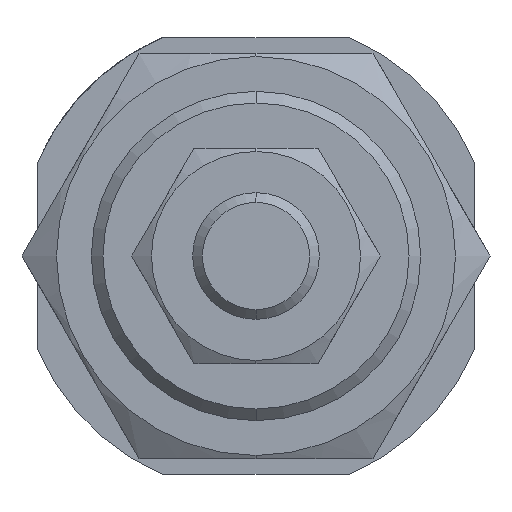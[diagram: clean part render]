
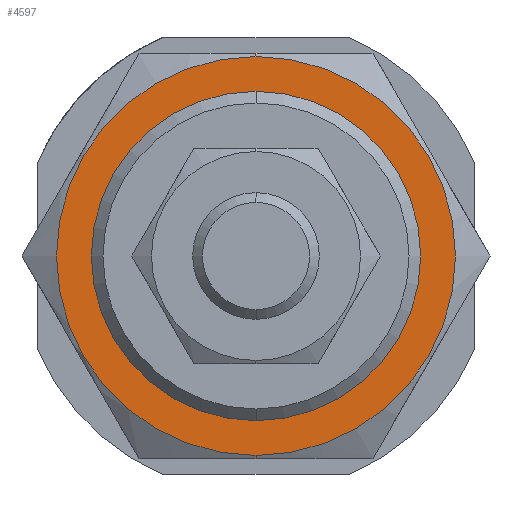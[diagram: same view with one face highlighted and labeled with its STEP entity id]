
A CAD part, left-side view. The second image highlights one B-rep face of the part: STEP entity #4597.
In plain terms, the highlighted planar face has unit normal (-1, 0, 0).
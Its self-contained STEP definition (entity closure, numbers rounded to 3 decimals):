
#378 = CARTESIAN_POINT ( 'NONE',  ( -11., 0., 15.75 ) ) ;
#383 = FACE_BOUND ( 'NONE', #1460, .T. ) ;
#659 = DIRECTION ( 'NONE',  ( 1., 0., 0. ) ) ;
#668 = DIRECTION ( 'NONE',  ( 1., 0., 0. ) ) ;
#728 = EDGE_CURVE ( 'NONE', #3328, #4291, #1729, .T. ) ;
#851 = VERTEX_POINT ( 'NONE', #4143 ) ;
#1117 = CIRCLE ( 'NONE', #5134, 13. ) ;
#1194 = ORIENTED_EDGE ( 'NONE', *, *, #5172, .T. ) ;
#1460 = EDGE_LOOP ( 'NONE', ( #4460, #1194 ) ) ;
#1636 = ORIENTED_EDGE ( 'NONE', *, *, #728, .F. ) ;
#1729 = CIRCLE ( 'NONE', #5129, 15.75 ) ;
#1863 = CARTESIAN_POINT ( 'NONE',  ( -11., 0., 0. ) ) ;
#1956 = AXIS2_PLACEMENT_3D ( 'NONE', #2277, #668, #5234 ) ;
#2277 = CARTESIAN_POINT ( 'NONE',  ( -11., 0., 0. ) ) ;
#2312 = DIRECTION ( 'NONE',  ( 0., 0., -1. ) ) ;
#2574 = DIRECTION ( 'NONE',  ( 1., 0., 0. ) ) ;
#2783 = DIRECTION ( 'NONE',  ( 1., 0., 0. ) ) ;
#2866 = DIRECTION ( 'NONE',  ( 0., 0., -1. ) ) ;
#2913 = CIRCLE ( 'NONE', #1956, 13. ) ;
#2992 = DIRECTION ( 'NONE',  ( 0., 1., 0. ) ) ;
#3039 = CARTESIAN_POINT ( 'NONE',  ( -11., 0., 0. ) ) ;
#3250 = ORIENTED_EDGE ( 'NONE', *, *, #4977, .F. ) ;
#3252 = CARTESIAN_POINT ( 'NONE',  ( -11., 0., 0. ) ) ;
#3328 = VERTEX_POINT ( 'NONE', #4965 ) ;
#3344 = DIRECTION ( 'NONE',  ( 0., 0., -1. ) ) ;
#3604 = CIRCLE ( 'NONE', #4747, 15.75 ) ;
#3682 = VERTEX_POINT ( 'NONE', #4516 ) ;
#3710 = DIRECTION ( 'NONE',  ( 1., 0., 0. ) ) ;
#3856 = EDGE_CURVE ( 'NONE', #3682, #851, #2913, .T. ) ;
#4143 = CARTESIAN_POINT ( 'NONE',  ( -11., 0., -13. ) ) ;
#4291 = VERTEX_POINT ( 'NONE', #378 ) ;
#4460 = ORIENTED_EDGE ( 'NONE', *, *, #3856, .T. ) ;
#4516 = CARTESIAN_POINT ( 'NONE',  ( -11., 0., 13. ) ) ;
#4586 = PLANE ( 'NONE',  #4917 ) ;
#4597 = ADVANCED_FACE ( 'NONE', ( #5057, #383 ), #4586, .F. ) ;
#4634 = CARTESIAN_POINT ( 'NONE',  ( -11., 0., 0. ) ) ;
#4747 = AXIS2_PLACEMENT_3D ( 'NONE', #3039, #2574, #3344 ) ;
#4842 = EDGE_LOOP ( 'NONE', ( #1636, #3250 ) ) ;
#4917 = AXIS2_PLACEMENT_3D ( 'NONE', #4634, #3710, #2992 ) ;
#4965 = CARTESIAN_POINT ( 'NONE',  ( -11., 0., -15.75 ) ) ;
#4977 = EDGE_CURVE ( 'NONE', #4291, #3328, #3604, .T. ) ;
#5057 = FACE_OUTER_BOUND ( 'NONE', #4842, .T. ) ;
#5129 = AXIS2_PLACEMENT_3D ( 'NONE', #1863, #659, #2312 ) ;
#5134 = AXIS2_PLACEMENT_3D ( 'NONE', #3252, #2783, #2866 ) ;
#5172 = EDGE_CURVE ( 'NONE', #851, #3682, #1117, .T. ) ;
#5234 = DIRECTION ( 'NONE',  ( 0., 0., -1. ) ) ;
